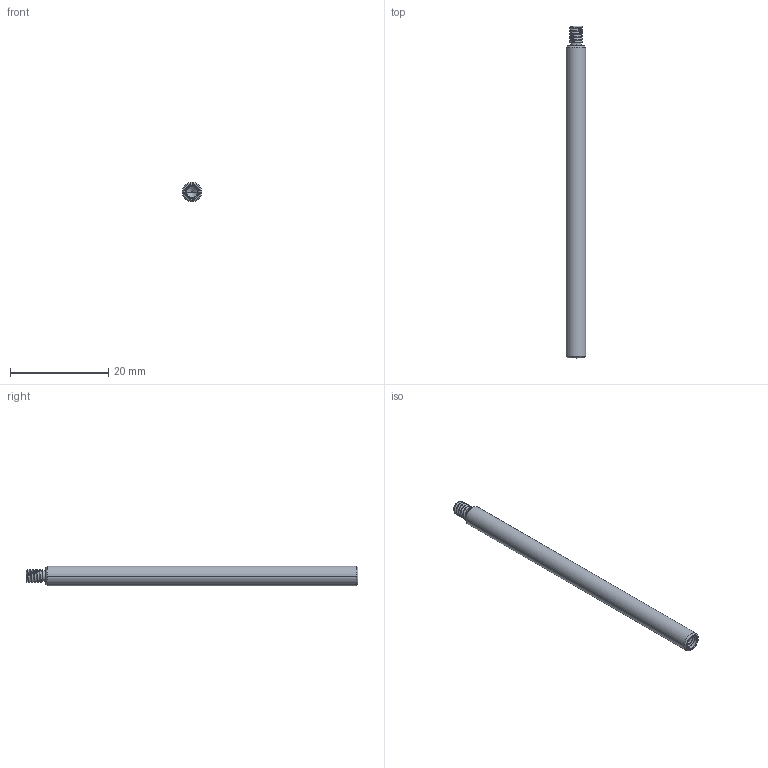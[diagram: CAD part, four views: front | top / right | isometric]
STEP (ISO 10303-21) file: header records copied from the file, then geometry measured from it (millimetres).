
FILE_DESCRIPTION((''),'2;1');
FILE_NAME('SR25','2022-11-15T',('daizh'),(''),'CREO PARAMETRIC BY PTC INC, 2018360','CREO PARAMETRIC BY PTC INC, 2018360','');
FILE_SCHEMA(('CONFIG_CONTROL_DESIGN'));
Length unit declared in the file: millimetre
Products named in the file (1): SR25
Bounding box: 4 x 67.5 x 4 mm (x, y, z)
Volume: 775.8 mm3; surface area: 941 mm2
Topology: 1 solids, 1 shells, 64 faces, 164 edges, 105 vertices
Faces by surface type: cylinder 35, bspline 14, cone 10, plane 5
Entity records: 4454 total; most frequent: CARTESIAN_POINT 3055, ORIENTED_EDGE 328, DIRECTION 202, EDGE_CURVE 164, VERTEX_POINT 105, B_SPLINE_CURVE_WITH_KNOTS 86, AXIS2_PLACEMENT_3D 74, EDGE_LOOP 67
